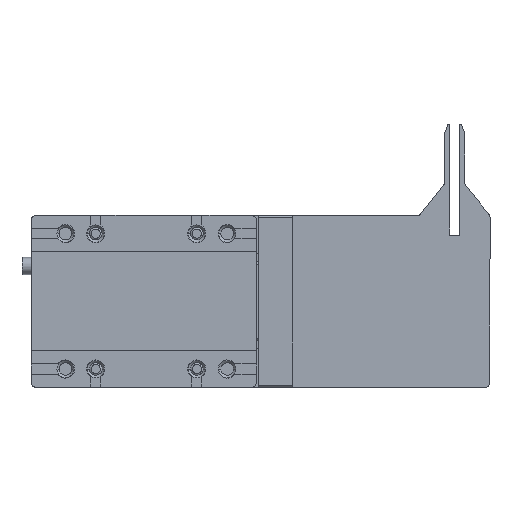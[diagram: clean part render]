
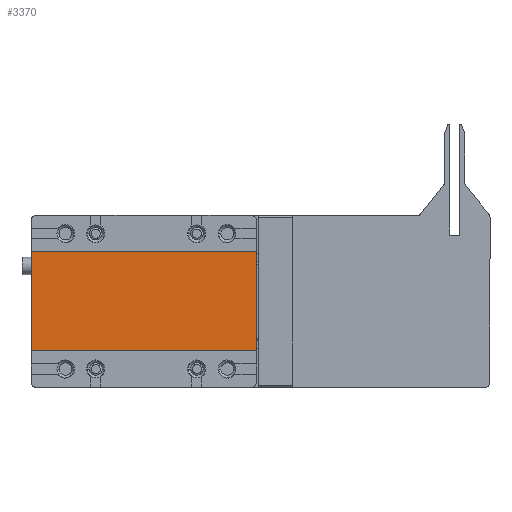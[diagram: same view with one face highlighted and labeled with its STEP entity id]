
A CAD part, top view. The second image highlights one B-rep face of the part: STEP entity #3370.
In plain terms, the highlighted planar face has unit normal (0, 0, 1).
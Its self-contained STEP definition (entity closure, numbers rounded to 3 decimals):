
#1462 = DIRECTION ( 'NONE',  ( 1., 0., 0. ) ) ;
#2407 = ORIENTED_EDGE ( 'NONE', *, *, #5833, .T. ) ;
#3370 = ADVANCED_FACE ( 'NONE', ( #14282 ), #17221, .T. ) ;
#5833 = EDGE_CURVE ( 'NONE', #7452, #18696, #15750, .T. ) ;
#6130 = EDGE_CURVE ( 'NONE', #20741, #7452, #22492, .T. ) ;
#6323 = AXIS2_PLACEMENT_3D ( 'NONE', #31705, #32083, #11557 ) ;
#6720 = EDGE_CURVE ( 'NONE', #17904, #20741, #27317, .T. ) ;
#7452 = VERTEX_POINT ( 'NONE', #8075 ) ;
#7646 = EDGE_LOOP ( 'NONE', ( #31741, #2407, #20227, #28759 ) ) ;
#8075 = CARTESIAN_POINT ( 'NONE',  ( 2.739, 21.772, 35.356 ) ) ;
#8805 = DIRECTION ( 'NONE',  ( -1., 0., 0. ) ) ;
#11211 = DIRECTION ( 'NONE',  ( 0., 1., 0. ) ) ;
#11557 = DIRECTION ( 'NONE',  ( 1., 0., 0. ) ) ;
#14165 = CARTESIAN_POINT ( 'NONE',  ( 25.039, 31.572, 35.356 ) ) ;
#14282 = FACE_OUTER_BOUND ( 'NONE', #7646, .T. ) ;
#15194 = VECTOR ( 'NONE', #8805, 1000. ) ;
#15288 = VECTOR ( 'NONE', #18999, 1000. ) ;
#15750 = LINE ( 'NONE', #30590, #32687 ) ;
#16488 = CARTESIAN_POINT ( 'NONE',  ( 25.039, 21.772, 35.356 ) ) ;
#17221 = PLANE ( 'NONE',  #6323 ) ;
#17904 = VERTEX_POINT ( 'NONE', #33768 ) ;
#18120 = CARTESIAN_POINT ( 'NONE',  ( 2.839, 31.572, 35.356 ) ) ;
#18696 = VERTEX_POINT ( 'NONE', #16488 ) ;
#18999 = DIRECTION ( 'NONE',  ( 0., -1., 0. ) ) ;
#20227 = ORIENTED_EDGE ( 'NONE', *, *, #34912, .T. ) ;
#20741 = VERTEX_POINT ( 'NONE', #23366 ) ;
#22492 = LINE ( 'NONE', #36775, #15288 ) ;
#23366 = CARTESIAN_POINT ( 'NONE',  ( 2.739, 31.572, 35.356 ) ) ;
#27317 = LINE ( 'NONE', #18120, #15194 ) ;
#28759 = ORIENTED_EDGE ( 'NONE', *, *, #6720, .T. ) ;
#29191 = LINE ( 'NONE', #14165, #29815 ) ;
#29815 = VECTOR ( 'NONE', #11211, 1000. ) ;
#30590 = CARTESIAN_POINT ( 'NONE',  ( 2.839, 21.772, 35.356 ) ) ;
#31705 = CARTESIAN_POINT ( 'NONE',  ( 13.839, 26.672, 35.356 ) ) ;
#31741 = ORIENTED_EDGE ( 'NONE', *, *, #6130, .T. ) ;
#32083 = DIRECTION ( 'NONE',  ( 0., 0., 1. ) ) ;
#32687 = VECTOR ( 'NONE', #1462, 1000. ) ;
#33768 = CARTESIAN_POINT ( 'NONE',  ( 25.039, 31.572, 35.356 ) ) ;
#34912 = EDGE_CURVE ( 'NONE', #18696, #17904, #29191, .T. ) ;
#36775 = CARTESIAN_POINT ( 'NONE',  ( 2.739, 31.572, 35.356 ) ) ;
